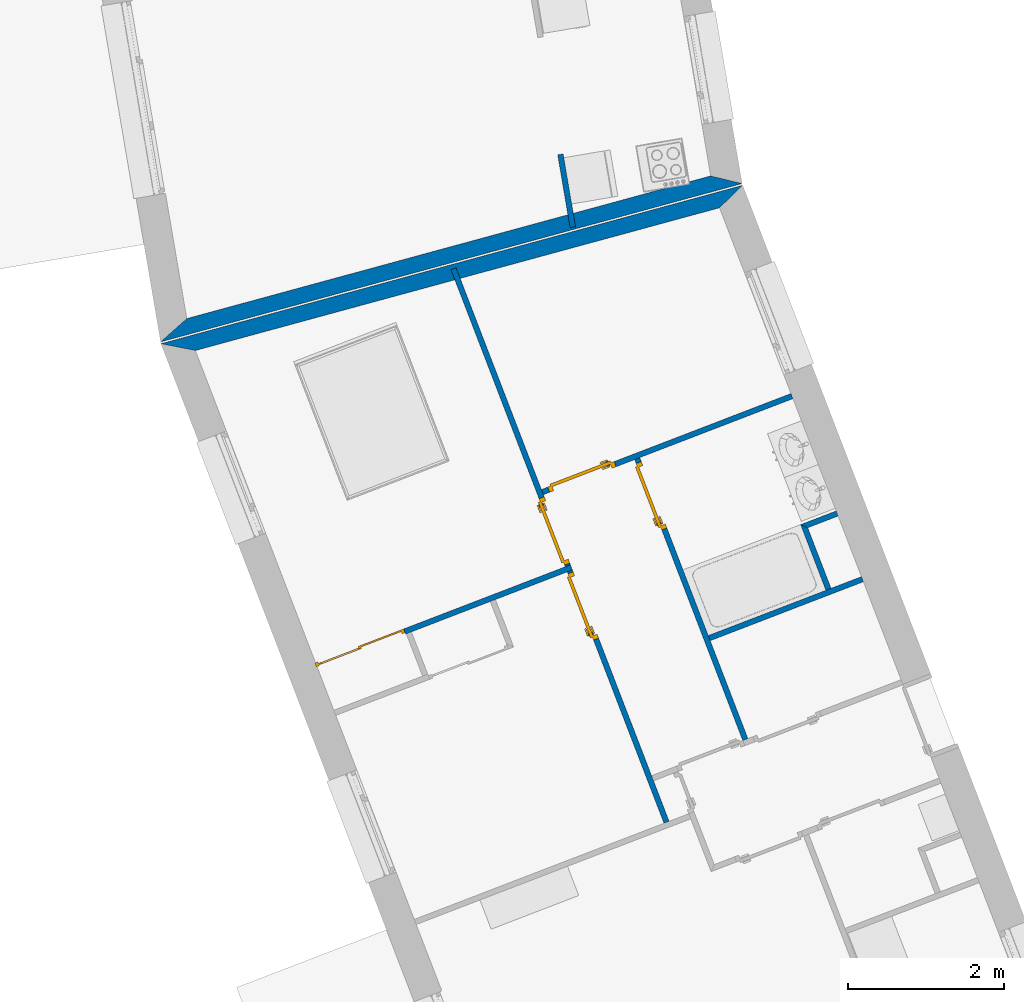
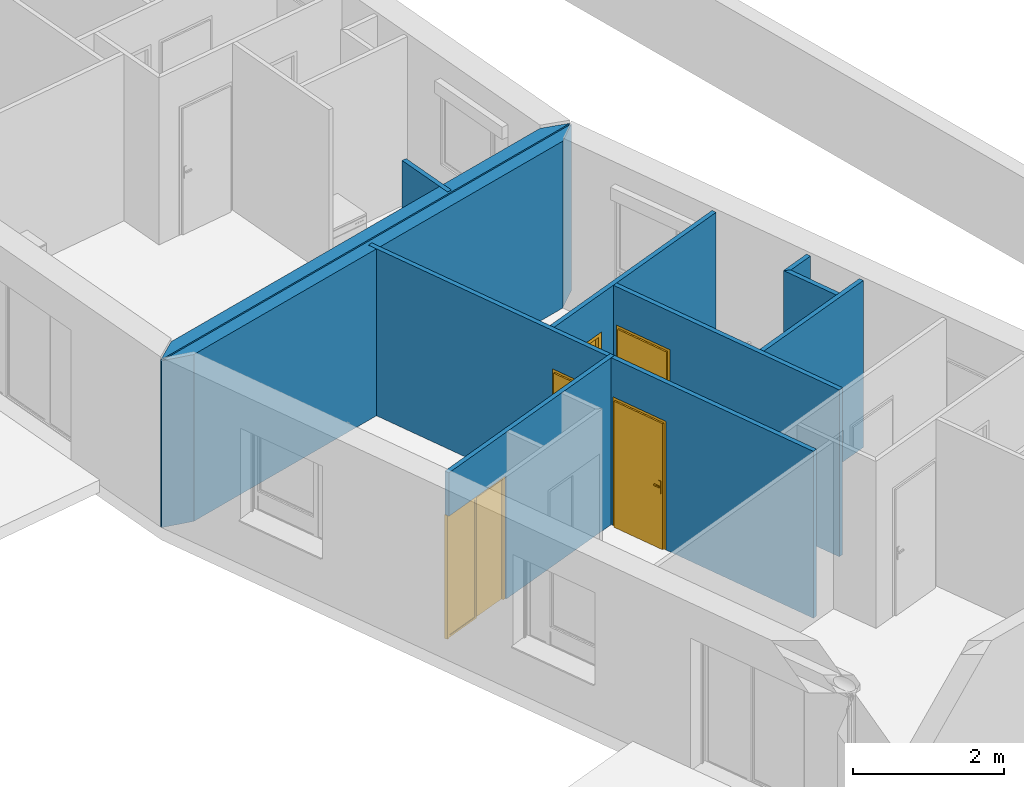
# One storey, part 84 of 195: 10 walls, 5 doors, 5 openings.
"""IFC2X3 building model written with IfcOpenShell, lengths in metres."""

from ifc_helpers import new_model, entity, si_unit, converted_unit, derived_unit, money_unit, direction, frame, origin_with_axes, origin_2d_with_axis, place, context, subcontext, project, spatial, polyline, rectangle, outline, extrude, open_shell, faceted_brep, surface_model, source, transform, mapped, material, layer, layer_set, layer_usage, type_object, element, fill, save


model = new_model("IFC2X3")

# Units and contexts
model_context = context("Model", 3, precision=1e-05, world=origin_with_axes(), true_north=direction((0.0, 1.0)))
body_context = subcontext(model_context, "Body", "Model", "MODEL_VIEW")
ifc_project = project(units=[si_unit("LENGTHUNIT", "METRE"), si_unit("AREAUNIT", "SQUARE_METRE"), si_unit("VOLUMEUNIT", "CUBIC_METRE"), converted_unit("PLANEANGLEUNIT", "DEGREE", entity("IfcPlaneAngleMeasure", 0.0174532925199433), si_unit("PLANEANGLEUNIT", "RADIAN"), dimensions=[0, 0, 0, 0, 0, 0, 0]), money_unit("CHF"), converted_unit("TIMEUNIT", "Year", entity("IfcTimeMeasure", 31557600.0), si_unit("TIMEUNIT", "SECOND"), dimensions=[0, 0, 1, 0, 0, 0, 0]), si_unit("MASSUNIT", "GRAM", prefix="KILO"), si_unit("THERMODYNAMICTEMPERATUREUNIT", "DEGREE_CELSIUS"), si_unit("LUMINOUSINTENSITYUNIT", "LUMEN"), si_unit("ENERGYUNIT", "JOULE", prefix="MEGA"), derived_unit("THERMALCONDUCTANCEUNIT", [(si_unit("POWERUNIT", "WATT"), 1), (si_unit("LENGTHUNIT", "METRE"), -1), (si_unit("THERMODYNAMICTEMPERATUREUNIT", "KELVIN"), -1)]), derived_unit("SPECIFICHEATCAPACITYUNIT", [(si_unit("ENERGYUNIT", "JOULE"), 1), (si_unit("MASSUNIT", "GRAM", prefix="KILO"), -1), (si_unit("THERMODYNAMICTEMPERATUREUNIT", "KELVIN"), -1)]), derived_unit("MASSDENSITYUNIT", [(si_unit("MASSUNIT", "GRAM", prefix="KILO"), 1), (si_unit("VOLUMEUNIT", "CUBIC_METRE"), -1)])], contexts=[model_context])

# Site, building, storey
site_placement = place(None, origin_with_axes())
site = spatial("IfcSite", under=ifc_project, at=site_placement, Name="Site", CompositionType="ELEMENT")
building_placement = place(site_placement, origin_with_axes())
building = spatial("IfcBuilding", under=site, at=building_placement, Name="Bâtiment", CompositionType="ELEMENT")
storey_placement = place(building_placement, origin_with_axes())
storey = spatial("IfcBuildingStorey", under=building, at=storey_placement, Name="rdc", CompositionType="ELEMENT", Elevation=0.0)

# Wall
ifc_material_1 = material(Name="Hachure solide 268963992")
ifc_layer_1 = layer(ifc_material_1, 0.07, ventilated="UNKNOWN")
ifc_layer_set_1 = layer_set([ifc_layer_1], Name="Cloison 70 0826278243")
ifc_layer_usage_1 = layer_usage(ifc_layer_set_1, "AXIS2", "NEGATIVE", 0.0)
wall_type_1 = type_object("IfcWallType", Name="Cloison 70 0826278243 70", PredefinedType="NOTDEFINED")
wall_1_placement = place(storey_placement, frame((9587.119102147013, -1033.2171160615, 57.7), z_axis=(0.0, 0.0, 1.0), x_axis=(0.1677527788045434, -0.9858290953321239, 0.0)))
element("IfcWallStandardCase", 1, at=wall_1_placement, inside=storey, type_object=wall_type_1, material=ifc_layer_usage_1, Name="Mur-149", context=body_context, shape_type="SweptSolid", body=[
    extrude(outline(polyline([(0.0, -0.07000000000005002), (0.9446758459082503, -0.07000000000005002), (0.9446758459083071, 0.0), (0.0, 0.0), (0.0, -0.07000000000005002)])), origin_with_axes(), (0.0, 0.0, 1.0), 2.7),
])

# Wall, opening, door
ifc_layer_usage_2 = layer_usage(ifc_layer_set_1, "AXIS2", "NEGATIVE", 0.0)
wall_2_placement = place(storey_placement, frame((9590.41241166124, -1036.209776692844, 57.7), z_axis=(0.0, 0.0, 1.0), x_axis=(-0.9332788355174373, -0.3591526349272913, 0.0)))
wall_2 = element("IfcWallStandardCase", 2, at=wall_2_placement, inside=storey, type_object=wall_type_1, material=ifc_layer_usage_2, Name="Mur-149", context=body_context, shape_type="SweptSolid", body=[
    extrude(outline(polyline([(0.3800000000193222, -0.06999999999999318), (3.798728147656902, -0.06999999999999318), (3.798728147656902, 0.0), (0.3799999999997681, 0.0), (0.3800000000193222, -0.06999999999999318)])), origin_with_axes(), (0.0, 0.0, 1.0), 2.7),
])
opening_1_placement = place(wall_2_placement, frame((3.258083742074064, 0.0, 0.0), z_axis=(0.0, 0.0, 1.0), x_axis=(1.0, 0.0, 0.0)))
opening_1 = element("IfcOpeningElement", 3, at=opening_1_placement, cuts=wall_2, Name="Por-303", context=body_context, shape_type="SweptSolid", body=[
    extrude(rectangle(XDim=0.9099999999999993, YDim=2.079999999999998, at=origin_2d_with_axis()), frame((0.0, 0.06999999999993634, 1.039999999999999), z_axis=(0.0, 1.0, 0.0), x_axis=(1.0, 0.0, 0.0)), (0.0, 0.0, -1.0), 0.14),
])
door_style_1 = type_object("IfcDoorStyle", Name="Porte_1v", ConstructionType="NOTDEFINED", OperationType="NOTDEFINED", ParameterTakesPrecedence=False, Sizeable=False)
shared_shape_1 = source(origin_with_axes(), body_context, "Body", "Brep", [
    faceted_brep([(-0.455, 0.0, 0.0), (-0.455, 0.0, 2.08), (0.455, 0.0, 2.08), (0.455, 0.0, 0.0), (0.415, 0.0, 0.0), (0.415, 0.0, 2.04), (-0.415, 0.0, 2.04), (-0.415, 0.0, 0.0), (-0.455, -0.07, 0.0), (-0.455, -0.07, 2.08), (0.455, -0.07, 2.08), (0.455, -0.07, 0.0), (0.4, -0.07, 0.0), (0.4, -0.015, 0.0), (0.415, -0.015, 0.0), (0.415, -0.015, 2.04), (-0.415, -0.015, 2.04), (-0.415, -0.015, 0.0), (-0.4, -0.015, 0.0), (-0.4, -0.07, 0.0), (-0.4, -0.07, 2.025), (0.4, -0.07, 2.025), (0.4, -0.015, 2.025), (-0.4, -0.015, 2.025)], [[[0, 1, 2, 3, 4, 5, 6, 7]], [[8, 9, 1, 0]], [[9, 10, 2, 1]], [[10, 11, 3, 2]], [[3, 11, 12, 13, 14, 4]], [[5, 4, 14, 15]], [[6, 5, 15, 16]], [[7, 6, 16, 17]], [[0, 7, 17, 18, 19, 8]], [[19, 20, 21, 12, 11, 10, 9, 8]], [[22, 13, 12, 21]], [[17, 16, 15, 14, 13, 22, 23, 18]], [[18, 23, 20, 19]], [[23, 22, 21, 20]]]),
    faceted_brep([(0.35, -0.015, 0.9), (0.35, -0.015, 1.1), (0.39, -0.015, 1.1), (0.39, -0.015, 0.9), (0.35, -0.025, 0.9), (0.35, -0.025, 1.1), (0.39, -0.025, 1.1), (0.39, -0.025, 0.9)], [[[0, 1, 2, 3]], [[0, 4, 5, 1]], [[1, 5, 6, 2]], [[2, 6, 7, 3]], [[3, 7, 4, 0]], [[7, 6, 5, 4]]]),
    faceted_brep([(0.28, -0.025, 1.0), (0.28, -0.025, 1.02), (0.38, -0.025, 1.02), (0.38, -0.025, 1.0), (0.28, -0.045, 1.0), (0.28, -0.045, 1.02), (0.38, -0.045, 1.02), (0.38, -0.045, 1.0)], [[[0, 1, 2, 3]], [[0, 4, 5, 1]], [[1, 5, 6, 2]], [[2, 6, 7, 3]], [[3, 7, 4, 0]], [[7, 6, 5, 4]]]),
    faceted_brep([(0.35, 0.035, 0.9), (0.35, 0.035, 1.1), (0.39, 0.035, 1.1), (0.39, 0.035, 0.9), (0.35, 0.025, 0.9), (0.35, 0.025, 1.1), (0.39, 0.025, 1.1), (0.39, 0.025, 0.9)], [[[0, 1, 2, 3]], [[0, 4, 5, 1]], [[1, 5, 6, 2]], [[2, 6, 7, 3]], [[3, 7, 4, 0]], [[7, 6, 5, 4]]]),
    faceted_brep([(0.28, 0.05500000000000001, 1.0), (0.28, 0.05500000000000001, 1.02), (0.38, 0.05500000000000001, 1.02), (0.38, 0.05500000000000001, 1.0), (0.28, 0.035, 1.0), (0.28, 0.035, 1.02), (0.38, 0.035, 1.02), (0.38, 0.035, 1.0)], [[[0, 1, 2, 3]], [[0, 4, 5, 1]], [[1, 5, 6, 2]], [[2, 6, 7, 3]], [[3, 7, 4, 0]], [[7, 6, 5, 4]]]),
    faceted_brep([(0.415, 0.025, 0.0), (0.415, -0.015, 0.0), (-0.415, -0.015, 0.0), (-0.415, 0.025, 0.0), (0.415, 0.025, 2.04), (0.415, -0.015, 2.04), (-0.415, -0.015, 2.04), (-0.415, 0.025, 2.04)], [[[0, 1, 2, 3]], [[4, 5, 1, 0]], [[1, 5, 6, 2]], [[3, 2, 6, 7]], [[0, 3, 7, 4]], [[7, 6, 5, 4]]]),
])
door_1_placement = place(opening_1_placement, frame((0.4150000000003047, 0.0, 0.0), z_axis=(0.0, 0.0, 1.0), x_axis=(-1.0, 0.0, 0.0)))
door_1 = element("IfcDoor", 4, at=door_1_placement, inside=storey, type_object=door_style_1, Name="Por-303", OverallHeight=2.04, OverallWidth=0.83, context=body_context, shape_type="MappedRepresentation", body=[
    mapped(shared_shape_1, transform((0.4150000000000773, 0.06999999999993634, 0.0))),
])
fill(opening_1, door_1)

ifc_layer_usage_3 = layer_usage(ifc_layer_set_1, "AXIS2", "NEGATIVE", 0.0)
wall_3_placement = place(storey_placement, frame((9587.237311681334, -1038.536014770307, 57.7), z_axis=(0.0, 0.0, 1.0), x_axis=(-0.9332788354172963, -0.3591526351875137, 0.0)))
wall_3 = element("IfcWallStandardCase", 5, at=wall_3_placement, inside=storey, type_object=wall_type_1, material=ifc_layer_usage_3, Name="Mur-149", context=body_context, shape_type="SweptSolid", body=[
    extrude(outline(polyline([(0.0, -0.07000000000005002), (3.491186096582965, -0.06999999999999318), (3.491186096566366, 0.0), (0.0, 0.0), (0.0, -0.07000000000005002)])), origin_with_axes(), (0.0, 0.0, 1.0), 2.7),
])
opening_2_placement = place(wall_3_placement, frame((2.892309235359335, 0.0, 0.0), z_axis=(0.0, 0.0, 1.0), x_axis=(1.0, 0.0, 0.0)))
opening_2 = element("IfcOpeningElement", 6, at=opening_2_placement, cuts=wall_3, Name="Por-356", context=body_context, shape_type="SweptSolid", body=[
    extrude(rectangle(XDim=1.216467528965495, YDim=2.0, at=origin_2d_with_axis()), frame((0.0, -0.06999999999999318, 1.0), z_axis=(0.0, 1.0, 0.0), x_axis=(1.0, 0.0, 0.0)), (0.0, 0.0, -1.0), 0.07),
    extrude(rectangle(XDim=1.216467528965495, YDim=2.0, at=origin_2d_with_axis()), frame((0.0, -0.07000000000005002, 1.0), z_axis=(0.0, -1.0, 0.0), x_axis=(1.0, 0.0, 0.0)), (0.0, 0.0, -1.0), 0.07),
])
door_style_2 = type_object("IfcDoorStyle", ConstructionType="NOTDEFINED", OperationType="NOTDEFINED", ParameterTakesPrecedence=False, Sizeable=False)
shared_shape_2 = source(origin_with_axes(), body_context, "Body", "SurfaceModel", [
    faceted_brep([(0.6082337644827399, 0.0, 0.0), (0.5682337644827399, 0.0, 0.0), (0.5682337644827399, 0.0, 1.96), (-0.5682337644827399, 0.0, 1.96), (-0.5682337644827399, 0.0, 0.0), (-0.6082337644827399, 0.0, 0.0), (-0.6082337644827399, 0.0, 2.0), (0.6082337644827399, 0.0, 2.0), (0.6082337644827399, -0.05, 0.0), (0.5682337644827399, -0.05, 0.0), (0.5682337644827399, -0.04, 0.0), (0.5682337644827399, -0.04, 1.96), (-0.5682337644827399, -0.04, 1.96), (-0.5682337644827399, -0.04, 0.0), (-0.5682337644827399, -0.05, 0.0), (-0.6082337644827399, -0.05, 0.0), (-0.6082337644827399, -0.05, 2.0), (0.6082337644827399, -0.05, 2.0), (-0.5682337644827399, -0.05, 1.96), (0.5682337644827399, -0.05, 1.96)], [[[0, 1, 2, 3, 4, 5, 6, 7]], [[0, 8, 9, 10, 1]], [[1, 10, 11, 2]], [[2, 11, 12, 3]], [[3, 12, 13, 4]], [[5, 4, 13, 14, 15]], [[16, 6, 5, 15]], [[17, 7, 6, 16]], [[8, 0, 7, 17]], [[9, 8, 17, 16, 15, 14, 18, 19]], [[10, 9, 19, 11]], [[11, 19, 18, 12]], [[12, 18, 14, 13]]]),
    faceted_brep([(-0.5682337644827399, -0.02, 0.0), (0.01500000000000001, -0.02, 0.0), (0.01500000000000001, -0.04, 0.0), (-0.5682337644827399, -0.04, 0.0), (-0.5682337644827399, -0.02, 1.96), (0.01500000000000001, -0.02, 1.96), (-0.5382337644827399, -0.02, 0.03), (-0.01500000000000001, -0.02, 0.03), (-0.01500000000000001, -0.02, 1.93), (-0.5382337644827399, -0.02, 1.93), (0.01500000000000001, -0.04, 1.96), (-0.5682337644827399, -0.04, 1.96), (-0.5382337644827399, -0.04, 0.03), (-0.5382337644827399, -0.04, 1.93), (-0.01500000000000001, -0.04, 1.93), (-0.01500000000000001, -0.04, 0.03)], [[[0, 1, 2, 3]], [[0, 4, 5, 1], [6, 7, 8, 9]], [[1, 5, 10, 2]], [[3, 2, 10, 11], [12, 13, 14, 15]], [[4, 0, 3, 11]], [[5, 4, 11, 10]], [[7, 6, 12, 15]], [[8, 7, 15, 14]], [[9, 8, 14, 13]], [[6, 9, 13, 12]]]),
    surface_model("IfcShellBasedSurfaceModel", [(-0.5382337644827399, -0.03, 0.03), (-0.01500000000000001, -0.03, 0.03), (-0.01500000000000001, -0.03, 1.93), (-0.5382337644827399, -0.03, 1.93)], [open_shell([[[0, 1, 2, 3]]])]),
    faceted_brep([(-0.01500000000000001, 0.0, 0.0), (0.5682337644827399, 0.0, 0.0), (0.5682337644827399, -0.02, 0.0), (-0.01500000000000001, -0.02, 0.0), (-0.01500000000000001, 0.0, 1.96), (0.5682337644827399, 0.0, 1.96), (0.5682337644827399, -0.02, 1.96), (-0.01500000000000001, -0.02, 1.96)], [[[0, 1, 2, 3]], [[0, 4, 5, 1]], [[1, 5, 6, 2]], [[3, 2, 6, 7]], [[4, 0, 3, 7]], [[5, 4, 7, 6]]]),
])
door_2_placement = place(opening_2_placement, frame((0.6082337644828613, 0.0, 0.0), z_axis=(0.0, 0.0, 1.0), x_axis=(-1.0, 0.0, 0.0)))
door_2 = element("IfcDoor", 7, at=door_2_placement, inside=storey, type_object=door_style_2, Name="Por-356", OverallHeight=2.0, OverallWidth=1.21647, context=body_context, shape_type="MappedRepresentation", body=[
    mapped(shared_shape_2, transform((0.6082337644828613, 0.06999999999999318, 0.0))),
])
fill(opening_2, door_2)

# Wall, openings, doors
ifc_layer_usage_4 = layer_usage(ifc_layer_set_1, "AXIS2", "NEGATIVE", 0.0)
wall_4_placement = place(storey_placement, frame((9585.750891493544, -1034.673580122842, 57.7), z_axis=(0.0, 0.0, 1.0), x_axis=(0.3591576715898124, -0.9332768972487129, 0.0)))
wall_4 = element("IfcWallStandardCase", 8, at=wall_4_placement, inside=storey, type_object=wall_type_1, material=ifc_layer_usage_4, Name="Mur-149", context=body_context, shape_type="SweptSolid", body=[
    extrude(outline(polyline([(0.0, -0.06999999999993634), (7.582896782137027, -0.07000000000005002), (7.582897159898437, 0.0), (0.0, 0.0), (0.0, -0.06999999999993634)])), origin_with_axes(), (0.0, 0.0, 1.0), 2.7),
])
opening_3_placement = place(wall_4_placement, frame((4.61948407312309, 0.0, 0.0), z_axis=(0.0, 0.0, 1.0), x_axis=(1.0, 0.0, 0.0)))
opening_3 = element("IfcOpeningElement", 9, at=opening_3_placement, cuts=wall_4, Name="Por-302", context=body_context, shape_type="SweptSolid", body=[
    extrude(rectangle(XDim=0.9099999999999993, YDim=2.079999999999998, at=origin_2d_with_axis()), frame((0.0, 0.07000000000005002, 1.039999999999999), z_axis=(0.0, -1.0, 0.0), x_axis=(-1.0, 0.0, 0.0)), (0.0, 0.0, 1.0), 0.14),
])
opening_4_placement = place(wall_4_placement, frame((3.591317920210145, 0.0, 0.0), z_axis=(0.0, 0.0, 1.0), x_axis=(1.0, 0.0, 0.0)))
opening_4 = element("IfcOpeningElement", 10, at=opening_4_placement, cuts=wall_4, Name="Por-301", context=body_context, shape_type="SweptSolid", body=[
    extrude(rectangle(XDim=0.9099999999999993, YDim=2.079999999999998, at=origin_2d_with_axis()), frame((0.0, 0.06999999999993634, 1.039999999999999), z_axis=(0.0, 1.0, 0.0), x_axis=(1.0, 0.0, 0.0)), (0.0, 0.0, -1.0), 0.14),
])
shared_shape_3 = source(origin_with_axes(), body_context, "Body", "Brep", [
    faceted_brep([(0.455, 0.0, 0.0), (0.415, 0.0, 0.0), (0.415, 0.0, 2.04), (-0.415, 0.0, 2.04), (-0.415, 0.0, 0.0), (-0.455, 0.0, 0.0), (-0.455, 0.0, 2.08), (0.455, 0.0, 2.08), (0.455, -0.07, 0.0), (0.4, -0.07, 0.0), (0.4, -0.015, 0.0), (0.415, -0.015, 0.0), (0.415, -0.015, 2.04), (-0.415, -0.015, 2.04), (-0.415, -0.015, 0.0), (-0.4, -0.015, 0.0), (-0.4, -0.07, 0.0), (-0.455, -0.07, 0.0), (-0.455, -0.07, 2.08), (0.455, -0.07, 2.08), (-0.4, -0.07, 2.025), (0.4, -0.07, 2.025), (0.4, -0.015, 2.025), (-0.4, -0.015, 2.025)], [[[0, 1, 2, 3, 4, 5, 6, 7]], [[0, 8, 9, 10, 11, 1]], [[1, 11, 12, 2]], [[2, 12, 13, 3]], [[3, 13, 14, 4]], [[5, 4, 14, 15, 16, 17]], [[18, 6, 5, 17]], [[19, 7, 6, 18]], [[8, 0, 7, 19]], [[9, 8, 19, 18, 17, 16, 20, 21]], [[10, 9, 21, 22]], [[11, 10, 22, 23, 15, 14, 13, 12]], [[23, 20, 16, 15]], [[22, 21, 20, 23]]]),
    faceted_brep([(-0.35, -0.015, 0.9), (-0.39, -0.015, 0.9), (-0.39, -0.015, 1.1), (-0.35, -0.015, 1.1), (-0.35, -0.025, 0.9), (-0.39, -0.025, 0.9), (-0.39, -0.025, 1.1), (-0.35, -0.025, 1.1)], [[[0, 1, 2, 3]], [[1, 0, 4, 5]], [[2, 1, 5, 6]], [[3, 2, 6, 7]], [[0, 3, 7, 4]], [[5, 4, 7, 6]]]),
    faceted_brep([(-0.28, -0.025, 1.0), (-0.38, -0.025, 1.0), (-0.38, -0.025, 1.02), (-0.28, -0.025, 1.02), (-0.28, -0.045, 1.0), (-0.38, -0.045, 1.0), (-0.38, -0.045, 1.02), (-0.28, -0.045, 1.02)], [[[0, 1, 2, 3]], [[1, 0, 4, 5]], [[2, 1, 5, 6]], [[3, 2, 6, 7]], [[0, 3, 7, 4]], [[5, 4, 7, 6]]]),
    faceted_brep([(-0.35, 0.035, 0.9), (-0.39, 0.035, 0.9), (-0.39, 0.035, 1.1), (-0.35, 0.035, 1.1), (-0.35, 0.025, 0.9), (-0.39, 0.025, 0.9), (-0.39, 0.025, 1.1), (-0.35, 0.025, 1.1)], [[[0, 1, 2, 3]], [[1, 0, 4, 5]], [[2, 1, 5, 6]], [[3, 2, 6, 7]], [[0, 3, 7, 4]], [[5, 4, 7, 6]]]),
    faceted_brep([(-0.28, 0.05500000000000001, 1.0), (-0.38, 0.05500000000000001, 1.0), (-0.38, 0.05500000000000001, 1.02), (-0.28, 0.05500000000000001, 1.02), (-0.28, 0.035, 1.0), (-0.38, 0.035, 1.0), (-0.38, 0.035, 1.02), (-0.28, 0.035, 1.02)], [[[0, 1, 2, 3]], [[1, 0, 4, 5]], [[2, 1, 5, 6]], [[3, 2, 6, 7]], [[0, 3, 7, 4]], [[5, 4, 7, 6]]]),
    faceted_brep([(-0.415, 0.025, 0.0), (0.415, 0.025, 0.0), (0.415, -0.015, 0.0), (-0.415, -0.015, 0.0), (-0.415, 0.025, 2.04), (0.415, 0.025, 2.04), (0.415, -0.015, 2.04), (-0.415, -0.015, 2.04)], [[[0, 1, 2, 3]], [[0, 4, 5, 1]], [[1, 5, 6, 2]], [[3, 2, 6, 7]], [[4, 0, 3, 7]], [[5, 4, 7, 6]]]),
])
door_3_placement = place(opening_3_placement, frame((0.415000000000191, 0.0, 0.0), z_axis=(0.0, 0.0, 1.0), x_axis=(-1.0, 0.0, 0.0)))
door_3 = element("IfcDoor", 11, at=door_3_placement, inside=storey, type_object=door_style_1, Name="Por-302", OverallHeight=2.04, OverallWidth=0.83, context=body_context, shape_type="MappedRepresentation", body=[
    mapped(shared_shape_3, transform((0.4150000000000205, 0.06999999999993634, 0.0))),
])
fill(opening_3, door_3)
door_4_placement = place(opening_4_placement, frame((0.4150000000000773, 0.0, 0.0), z_axis=(0.0, 0.0, 1.0), x_axis=(-1.0, 0.0, 0.0)))
door_4 = element("IfcDoor", 12, at=door_4_placement, inside=storey, type_object=door_style_1, Name="Por-301", OverallHeight=2.04, OverallWidth=0.83, context=body_context, shape_type="MappedRepresentation", body=[
    mapped(shared_shape_1, transform((0.4149999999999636, 0.07000000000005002, 0.0))),
])
fill(opening_4, door_4)

# Walls
ifc_layer_usage_5 = layer_usage(ifc_layer_set_1, "AXIS2", "NEGATIVE", 0.0)
wall_5_placement = place(storey_placement, frame((9590.246262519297, -1037.997064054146, 57.7), z_axis=(0.0, 0.0, 1.0), x_axis=(0.3591526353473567, -0.933278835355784, 0.0)))
element("IfcWallStandardCase", 13, at=wall_5_placement, inside=storey, type_object=wall_type_1, material=ifc_layer_usage_5, Name="Mur-149", context=body_context, shape_type="SweptSolid", body=[
    extrude(outline(polyline([(-0.0699999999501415, -0.07000000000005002), (0.8299999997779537, -0.07000000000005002), (0.8299999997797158, 0.0), (0.0, 0.0), (-0.0699999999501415, -0.07000000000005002)])), origin_with_axes(), (0.0, 0.0, 1.0), 2.7),
])
ifc_layer_usage_6 = layer_usage(ifc_layer_set_1, "AXIS2", "NEGATIVE", 0.0)
wall_6_placement = place(storey_placement, frame((9590.990060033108, -1037.710829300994, 57.7), z_axis=(0.0, 0.0, 1.0), x_axis=(-0.9332788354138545, -0.3591526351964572, 0.0)))
element("IfcWallStandardCase", 14, at=wall_6_placement, inside=storey, type_object=wall_type_1, material=ifc_layer_usage_6, Name="Mur-149", context=body_context, shape_type="SweptSolid", body=[
    extrude(outline(polyline([(0.3799999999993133, -0.07000000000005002), (0.8669724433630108, -0.07000000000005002), (0.7969724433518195, 0.0), (0.3799999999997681, 0.0), (0.3799999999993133, -0.07000000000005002)])), origin_with_axes(), (0.0, 0.0, 1.0), 2.7),
])
ifc_layer_usage_7 = layer_usage(ifc_layer_set_1, "AXIS2", "NEGATIVE", 0.0)
wall_7_placement = place(storey_placement, frame((9591.313297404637, -1038.550780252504, 57.7), z_axis=(0.0, 0.0, 1.0), x_axis=(-0.9332788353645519, -0.359152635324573, 0.0)))
element("IfcWallStandardCase", 15, at=wall_7_placement, inside=storey, type_object=wall_type_1, material=ifc_layer_usage_7, Name="Mur-149", context=body_context, shape_type="SweptSolid", body=[
    extrude(outline(polyline([(0.3799999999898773, -0.06999999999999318), (2.478728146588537, -0.06999999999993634), (2.47872814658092, 0.0), (0.3799999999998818, 0.0), (0.3799999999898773, -0.06999999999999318)])), origin_with_axes(), (0.0, 0.0, 1.0), 2.7),
])

# Wall, opening, door
ifc_layer_usage_8 = layer_usage(ifc_layer_set_1, "AXIS2", "NEGATIVE", 0.0)
wall_8_placement = place(storey_placement, frame((9588.09906714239, -1037.100018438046, 57.7), z_axis=(0.0, 0.0, 1.0), x_axis=(0.3591526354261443, -0.9332788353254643, 0.0)))
wall_8 = element("IfcWallStandardCase", 16, at=wall_8_placement, inside=storey, type_object=wall_type_1, material=ifc_layer_usage_8, Name="Mur-149", context=body_context, shape_type="SweptSolid", body=[
    extrude(outline(polyline([(1.119815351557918e-10, -0.07000000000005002), (3.850089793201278, -0.07000000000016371), (3.850089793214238, 0.0), (1.493845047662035e-10, 0.0), (1.119815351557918e-10, -0.07000000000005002)])), origin_with_axes(), (0.0, 0.0, 1.0), 2.7),
])
opening_5_placement = place(wall_8_placement, frame((0.5097203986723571, 0.0, 0.0), z_axis=(0.0, 0.0, 1.0), x_axis=(1.0, 0.0, 0.0)))
opening_5 = element("IfcOpeningElement", 17, at=opening_5_placement, cuts=wall_8, Name="Por-299", context=body_context, shape_type="SweptSolid", body=[
    extrude(rectangle(XDim=0.9099999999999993, YDim=2.079999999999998, at=origin_2d_with_axis()), frame((0.0, 0.07000000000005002, 1.039999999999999), z_axis=(0.0, -1.0, 0.0), x_axis=(-1.0, 0.0, 0.0)), (0.0, 0.0, 1.0), 0.14),
])
door_5_placement = place(opening_5_placement, frame((0.4149999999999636, 0.0, 0.0), z_axis=(0.0, 0.0, 1.0), x_axis=(-1.0, 0.0, 0.0)))
door_5 = element("IfcDoor", 18, at=door_5_placement, inside=storey, type_object=door_style_1, Name="Por-299", OverallHeight=2.04, OverallWidth=0.83, context=body_context, shape_type="MappedRepresentation", body=[
    mapped(shared_shape_3, transform((0.4149999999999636, 0.07000000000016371, 0.0))),
])
fill(opening_5, door_5)

# Walls
ifc_material_2 = material(Name="Parpaing 314940890")
ifc_layer_2 = layer(ifc_material_2, 0.2, ventilated="UNKNOWN")
ifc_layer_set_2 = layer_set([ifc_layer_2], Name="Beton  20")
ifc_layer_usage_9 = layer_usage(ifc_layer_set_2, "AXIS2", "NEGATIVE", 0.0)
wall_type_2 = type_object("IfcWallType", Name="Beton  20 200", PredefinedType="NOTDEFINED")
wall_9_placement = place(storey_placement, frame((9589.408254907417, -1033.5965492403, 57.7), z_axis=(0.0, 0.0, 1.0), x_axis=(-0.9648682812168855, -0.262734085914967, 0.0)))
element("IfcWallStandardCase", 19, at=wall_9_placement, inside=storey, type_object=wall_type_2, material=ifc_layer_usage_9, Name="Mur-105", context=body_context, shape_type="SweptSolid", body=[
    extrude(outline(polyline([(0.3622834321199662, -0.2000000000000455), (7.305039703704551, -0.2000000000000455), (7.706368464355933, 0.0), (0.0, 0.0), (0.3622834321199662, -0.2000000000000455)])), origin_with_axes(), (0.0, 0.0, 1.0), 2.7),
])
ifc_layer_usage_10 = layer_usage(ifc_layer_set_2, "AXIS2", "POSITIVE", 0.0)
wall_10_placement = place(storey_placement, frame((9589.41527848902, -1033.618668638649, 57.7), z_axis=(0.0, 0.0, 1.0), x_axis=(-0.9648682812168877, -0.2627340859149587, 0.0)))
element("IfcWallStandardCase", 20, at=wall_10_placement, inside=storey, type_object=wall_type_2, material=ifc_layer_usage_10, Name="Mur-105", context=body_context, shape_type="SweptSolid", body=[
    extrude(outline(polyline([(0.0, 0.0), (7.709597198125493, 0.0), (7.307260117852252, 0.1999999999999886), (0.3615950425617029, 0.1999999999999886), (0.0, 0.0)])), origin_with_axes(), (0.0, 0.0, 1.0), 2.7),
])

save(model, "model.ifc")
